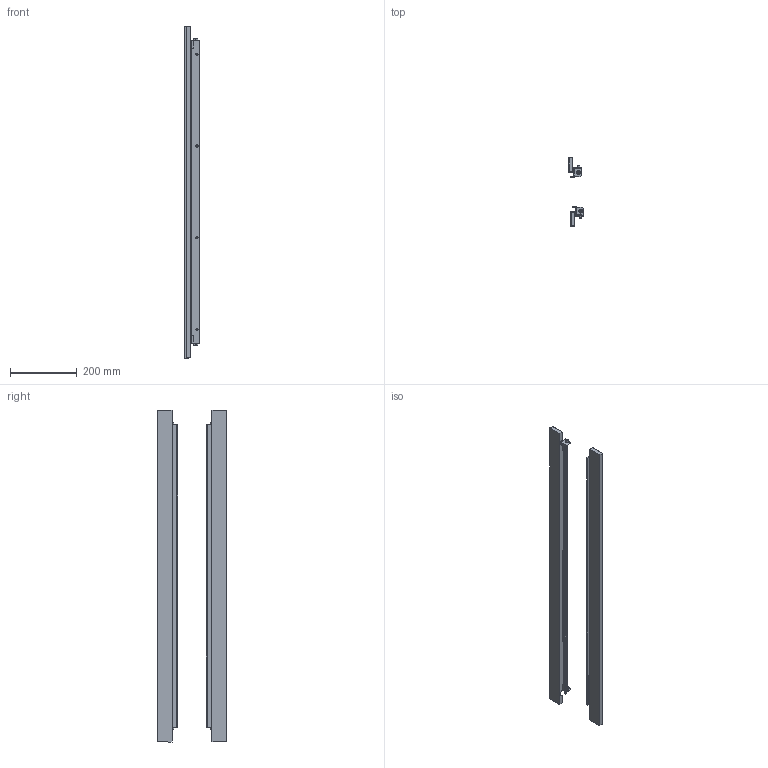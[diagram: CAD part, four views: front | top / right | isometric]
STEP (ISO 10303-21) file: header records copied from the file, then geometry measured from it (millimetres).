
FILE_DESCRIPTION (( 'STEP AP214' ), '1' );
FILE_NAME ('FO-00-PWSK-100 Ôàëüø-ïàíåëü êîìïåíñàöèîííàÿ øèðèíà 1000 ìì (2 øò óïàê).STEP', '2025-07-14T08:39:19', ( '' ), ( '' ), 'SwSTEP 2.0', 'SolidWorks 2023', '' );
FILE_SCHEMA (( 'AUTOMOTIVE_DESIGN' ));
Length unit declared in the file: millimetre
Products named in the file (2): FO-00-PWSK-100 Фальш-панель компенсационная ширина 1000 мм (2 шт упак); FO-00-PWSK-100 Фальш-панель компенсационная ширина 1000 мм
Assembly tree (2 placements, depth 2):
  FO-00-PWSK-100 Фальш-панель компенсационная ширина 1000 мм (2 шт упак)
    FO-00-PWSK-100 Фальш-панель компенсационная ширина 1000 мм  x2
Bounding box: 43.85 x 205.96 x 995.69 mm (x, y, z)
Volume: 455447.3 mm3; surface area: 503281.8 mm2
Topology: 2 solids, 2 shells, 520 faces, 1316 edges, 844 vertices
Faces by surface type: cylinder 244, plane 180, cone 48, torus 48
Entity records: 7961 total; most frequent: DIRECTION 1504, CARTESIAN_POINT 1345, ORIENTED_EDGE 1316, EDGE_CURVE 658, AXIS2_PLACEMENT_3D 581, VERTEX_POINT 422, LINE 342, VECTOR 342
